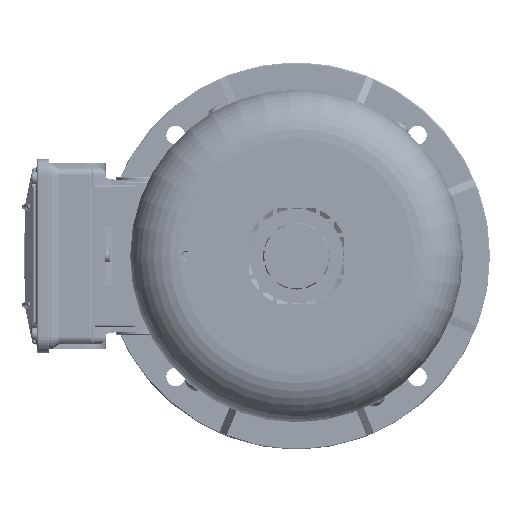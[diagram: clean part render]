
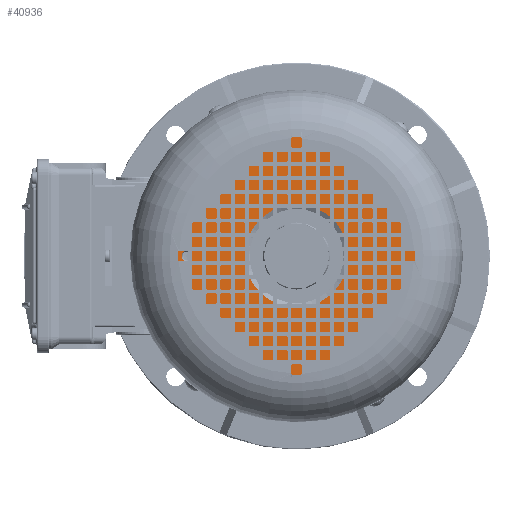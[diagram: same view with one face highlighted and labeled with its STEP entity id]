
A CAD part, left-side view. The second image highlights one B-rep face of the part: STEP entity #40936.
In plain terms, the highlighted planar face has unit normal (-1, 0, 0) as drawn and (0, 1, 0) by its records, which use the part's own axes.
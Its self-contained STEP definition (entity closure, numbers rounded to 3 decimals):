
#598 = CARTESIAN_POINT ( 'NONE',  ( -101., 49.5, 0. ) ) ;
#675 = VERTEX_POINT ( 'NONE', #62804 ) ;
#3538 = ORIENTED_EDGE ( 'NONE', *, *, #17057, .F. ) ;
#3558 = EDGE_LOOP ( 'NONE', ( #64223, #128388 ) ) ;
#6384 = DIRECTION ( 'NONE',  ( 0., 0., 1. ) ) ;
#8201 = ORIENTED_EDGE ( 'NONE', *, *, #151523, .F. ) ;
#9160 = FACE_BOUND ( 'NONE', #100523, .T. ) ;
#9726 = VERTEX_POINT ( 'NONE', #164674 ) ;
#10160 = CIRCLE ( 'NONE', #59117, 4.025 ) ;
#12139 = VERTEX_POINT ( 'NONE', #154149 ) ;
#12545 = PLANE ( 'NONE',  #32347 ) ;
#13439 = CARTESIAN_POINT ( 'NONE',  ( 39.905, 49.5, -75.051 ) ) ;
#13670 = DIRECTION ( 'NONE',  ( 0., 0., 1. ) ) ;
#17057 = EDGE_CURVE ( 'NONE', #111372, #143996, #10160, .T. ) ;
#20082 = DIRECTION ( 'NONE',  ( 0., 1., 0. ) ) ;
#22834 = CARTESIAN_POINT ( 'NONE',  ( 39.905, 49.5, -75.051 ) ) ;
#25830 = DIRECTION ( 'NONE',  ( 0., 1., 0. ) ) ;
#26450 = DIRECTION ( 'NONE',  ( 0., 0., 1. ) ) ;
#27825 = AXIS2_PLACEMENT_3D ( 'NONE', #161756, #83978, #6384 ) ;
#27875 = CARTESIAN_POINT ( 'NONE',  ( 0., 49.5, 0. ) ) ;
#29568 = CIRCLE ( 'NONE', #48589, 4.025 ) ;
#31148 = ORIENTED_EDGE ( 'NONE', *, *, #93569, .F. ) ;
#31647 = DIRECTION ( 'NONE',  ( 0., 1., 0. ) ) ;
#32347 = AXIS2_PLACEMENT_3D ( 'NONE', #598, #91259, #13670 ) ;
#35798 = DIRECTION ( 'NONE',  ( 0., 0., 1. ) ) ;
#39505 = FACE_BOUND ( 'NONE', #121124, .T. ) ;
#39557 = CARTESIAN_POINT ( 'NONE',  ( -84.948, 49.5, -1.059 ) ) ;
#40857 = DIRECTION ( 'NONE',  ( 0., 0., 1. ) ) ;
#40936 = ADVANCED_FACE ( 'NONE', ( #39505, #9160, #104478, #143074, #69948 ), #12545, .T. ) ;
#43318 = ORIENTED_EDGE ( 'NONE', *, *, #124080, .F. ) ;
#44850 = AXIS2_PLACEMENT_3D ( 'NONE', #141154, #63450, #154238 ) ;
#46850 = AXIS2_PLACEMENT_3D ( 'NONE', #103484, #25830, #116482 ) ;
#48589 = AXIS2_PLACEMENT_3D ( 'NONE', #76137, #166933, #89175 ) ;
#49292 = DIRECTION ( 'NONE',  ( 0., 1., 0. ) ) ;
#53890 = CIRCLE ( 'NONE', #66490, 40. ) ;
#54055 = EDGE_LOOP ( 'NONE', ( #43318, #128766 ) ) ;
#55681 = CIRCLE ( 'NONE', #142149, 4.025 ) ;
#57746 = CIRCLE ( 'NONE', #89813, 40. ) ;
#59117 = AXIS2_PLACEMENT_3D ( 'NONE', #109305, #31647, #122289 ) ;
#59186 = VERTEX_POINT ( 'NONE', #164309 ) ;
#62804 = CARTESIAN_POINT ( 'NONE',  ( 39.905, 49.5, -79.076 ) ) ;
#63450 = DIRECTION ( 'NONE',  ( 0., 1., 0. ) ) ;
#63640 = VERTEX_POINT ( 'NONE', #39557 ) ;
#64223 = ORIENTED_EDGE ( 'NONE', *, *, #84182, .T. ) ;
#66490 = AXIS2_PLACEMENT_3D ( 'NONE', #27875, #118539, #40857 ) ;
#69948 = FACE_BOUND ( 'NONE', #54055, .T. ) ;
#73447 = CARTESIAN_POINT ( 'NONE',  ( 45.043, 49.5, 68.059 ) ) ;
#75260 = CIRCLE ( 'NONE', #27825, 101. ) ;
#75340 = EDGE_LOOP ( 'NONE', ( #97352, #159157 ) ) ;
#76137 = CARTESIAN_POINT ( 'NONE',  ( -84.948, 49.5, 2.966 ) ) ;
#77448 = CIRCLE ( 'NONE', #80908, 101. ) ;
#79718 = EDGE_CURVE ( 'NONE', #59186, #675, #100332, .T. ) ;
#80908 = AXIS2_PLACEMENT_3D ( 'NONE', #97664, #20082, #110755 ) ;
#83978 = DIRECTION ( 'NONE',  ( 0., 1., 0. ) ) ;
#84182 = EDGE_CURVE ( 'NONE', #9726, #117685, #77448, .T. ) ;
#89175 = DIRECTION ( 'NONE',  ( 0., 0., 1. ) ) ;
#89813 = AXIS2_PLACEMENT_3D ( 'NONE', #126925, #49292, #140008 ) ;
#89937 = CARTESIAN_POINT ( 'NONE',  ( -84.948, 49.5, 6.991 ) ) ;
#91259 = DIRECTION ( 'NONE',  ( 0., 1., 0. ) ) ;
#93569 = EDGE_CURVE ( 'NONE', #143996, #111372, #140695, .T. ) ;
#93896 = CIRCLE ( 'NONE', #46850, 4.025 ) ;
#95636 = EDGE_CURVE ( 'NONE', #117685, #9726, #75260, .T. ) ;
#97352 = ORIENTED_EDGE ( 'NONE', *, *, #114244, .F. ) ;
#97664 = CARTESIAN_POINT ( 'NONE',  ( 0., 49.5, 0. ) ) ;
#100332 = CIRCLE ( 'NONE', #164184, 4.025 ) ;
#100523 = EDGE_LOOP ( 'NONE', ( #31148, #3538 ) ) ;
#101983 = EDGE_CURVE ( 'NONE', #63640, #166797, #93896, .T. ) ;
#103484 = CARTESIAN_POINT ( 'NONE',  ( -84.948, 49.5, 2.966 ) ) ;
#104110 = DIRECTION ( 'NONE',  ( 0., 1., 0. ) ) ;
#104478 = FACE_BOUND ( 'NONE', #75340, .T. ) ;
#109305 = CARTESIAN_POINT ( 'NONE',  ( 45.043, 49.5, 72.084 ) ) ;
#110755 = DIRECTION ( 'NONE',  ( 0., 0., 1. ) ) ;
#111372 = VERTEX_POINT ( 'NONE', #73447 ) ;
#113515 = DIRECTION ( 'NONE',  ( 0., 1., 0. ) ) ;
#114244 = EDGE_CURVE ( 'NONE', #166797, #63640, #29568, .T. ) ;
#115879 = CARTESIAN_POINT ( 'NONE',  ( 0., 49.5, -40. ) ) ;
#116482 = DIRECTION ( 'NONE',  ( 0., 0., 1. ) ) ;
#117685 = VERTEX_POINT ( 'NONE', #156375 ) ;
#118539 = DIRECTION ( 'NONE',  ( 0., 1., 0. ) ) ;
#119450 = ORIENTED_EDGE ( 'NONE', *, *, #79718, .F. ) ;
#121124 = EDGE_LOOP ( 'NONE', ( #119450, #8201 ) ) ;
#122289 = DIRECTION ( 'NONE',  ( 0., 0., 1. ) ) ;
#124080 = EDGE_CURVE ( 'NONE', #12139, #164618, #57746, .T. ) ;
#126925 = CARTESIAN_POINT ( 'NONE',  ( 0., 49.5, 0. ) ) ;
#128388 = ORIENTED_EDGE ( 'NONE', *, *, #95636, .T. ) ;
#128766 = ORIENTED_EDGE ( 'NONE', *, *, #129402, .F. ) ;
#129402 = EDGE_CURVE ( 'NONE', #164618, #12139, #53890, .T. ) ;
#140008 = DIRECTION ( 'NONE',  ( 0., 0., 1. ) ) ;
#140695 = CIRCLE ( 'NONE', #44850, 4.025 ) ;
#141154 = CARTESIAN_POINT ( 'NONE',  ( 45.043, 49.5, 72.084 ) ) ;
#142149 = AXIS2_PLACEMENT_3D ( 'NONE', #22834, #113515, #35798 ) ;
#143074 = FACE_OUTER_BOUND ( 'NONE', #3558, .T. ) ;
#143996 = VERTEX_POINT ( 'NONE', #165914 ) ;
#151523 = EDGE_CURVE ( 'NONE', #675, #59186, #55681, .T. ) ;
#154149 = CARTESIAN_POINT ( 'NONE',  ( 0., 49.5, 40. ) ) ;
#154238 = DIRECTION ( 'NONE',  ( 0., 0., 1. ) ) ;
#156375 = CARTESIAN_POINT ( 'NONE',  ( 0., 49.5, -101. ) ) ;
#159157 = ORIENTED_EDGE ( 'NONE', *, *, #101983, .F. ) ;
#161756 = CARTESIAN_POINT ( 'NONE',  ( 0., 49.5, 0. ) ) ;
#164184 = AXIS2_PLACEMENT_3D ( 'NONE', #13439, #104110, #26450 ) ;
#164309 = CARTESIAN_POINT ( 'NONE',  ( 39.905, 49.5, -71.026 ) ) ;
#164618 = VERTEX_POINT ( 'NONE', #115879 ) ;
#164674 = CARTESIAN_POINT ( 'NONE',  ( 0., 49.5, 101. ) ) ;
#165914 = CARTESIAN_POINT ( 'NONE',  ( 45.043, 49.5, 76.109 ) ) ;
#166797 = VERTEX_POINT ( 'NONE', #89937 ) ;
#166933 = DIRECTION ( 'NONE',  ( 0., 1., 0. ) ) ;
